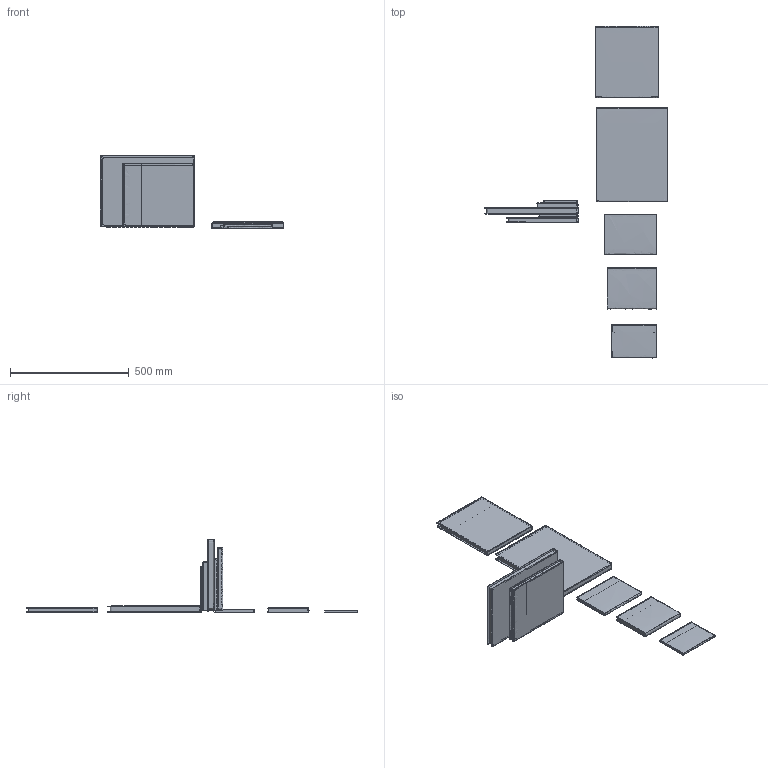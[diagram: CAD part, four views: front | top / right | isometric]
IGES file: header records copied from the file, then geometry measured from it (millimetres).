
Start section: Modeled  by John Cantu www.Nautilus3d.com
Global section: file name: L:\N3d Content\Models\Books\Export\Books.igs; native system: Rhinoceros ( Feb 26 2015 ); preprocessor: Trout Lake IGES 012 Feb 26 2015; date: 160528.120722; units: inch
Bounding box: 774.31 x 1400.72 x 309.05 mm (x, y, z)
Surface area: 3427941.5 mm2 (no closed solid volume)
Topology: 0 solids, 0 shells, 146 faces, 612 edges, 616 vertices
Faces by surface type: bspline 146
